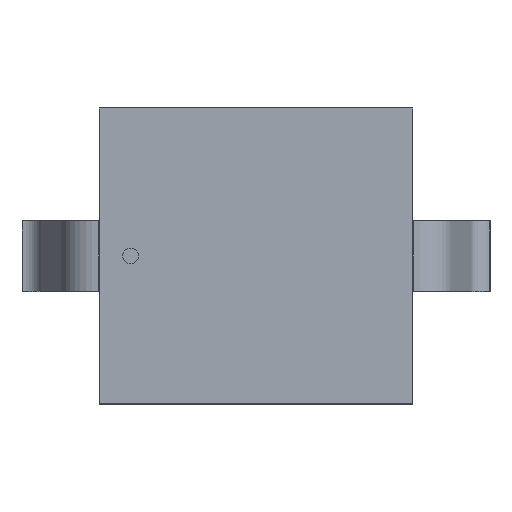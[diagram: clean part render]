
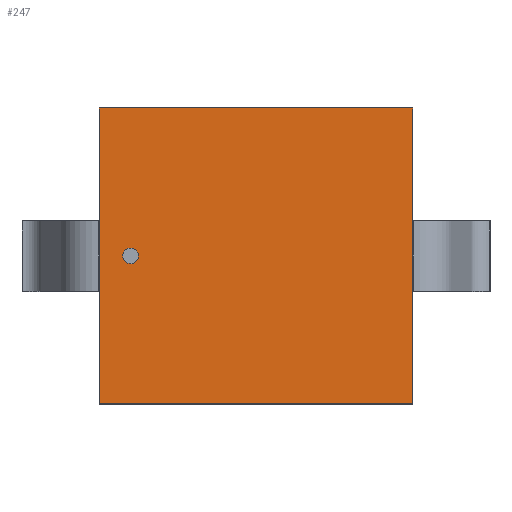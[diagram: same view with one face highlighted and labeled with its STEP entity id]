
A CAD part, top view. The second image highlights one B-rep face of the part: STEP entity #247.
In plain terms, the highlighted planar face has unit normal (0, 0, 1).
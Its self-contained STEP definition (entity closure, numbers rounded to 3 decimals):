
#247=ADVANCED_FACE('',(#253),#248,.T.);
#248=PLANE('',#249);
#249=AXIS2_PLACEMENT_3D('',#250,#251,#252);
#250=CARTESIAN_POINT('',(-0.902,-0.851,0.991));
#251=DIRECTION('',(0.0,0.0,1.0));
#252=DIRECTION('',(0.,1.,0.));
#253=FACE_OUTER_BOUND('',#254,.T.);
#254=EDGE_LOOP('',(#255,#265,#275,#285));
#258=CARTESIAN_POINT('',(0.902,-0.851,0.991));
#257=VERTEX_POINT('',#258);
#260=CARTESIAN_POINT('',(-0.902,-0.851,0.991));
#259=VERTEX_POINT('',#260);
#256=EDGE_CURVE('',#257,#259,#261,.T.);
#261=LINE('',#258,#263);
#263=VECTOR('',#264,1.803);
#264=DIRECTION('',(-1.0,0.0,0.0));
#255=ORIENTED_EDGE('',*,*,#256,.F.);
#268=CARTESIAN_POINT('',(0.902,0.851,0.991));
#267=VERTEX_POINT('',#268);
#266=EDGE_CURVE('',#267,#257,#271,.T.);
#271=LINE('',#268,#273);
#273=VECTOR('',#274,1.702);
#274=DIRECTION('',(0.0,-1.0,0.0));
#265=ORIENTED_EDGE('',*,*,#266,.F.);
#278=CARTESIAN_POINT('',(-0.902,0.851,0.991));
#277=VERTEX_POINT('',#278);
#276=EDGE_CURVE('',#277,#267,#281,.T.);
#281=LINE('',#278,#283);
#283=VECTOR('',#284,1.803);
#284=DIRECTION('',(1.0,0.0,0.0));
#275=ORIENTED_EDGE('',*,*,#276,.F.);
#286=EDGE_CURVE('',#259,#277,#291,.T.);
#291=LINE('',#260,#293);
#293=VECTOR('',#294,1.702);
#294=DIRECTION('',(0.0,1.0,0.0));
#285=ORIENTED_EDGE('',*,*,#286,.F.);
